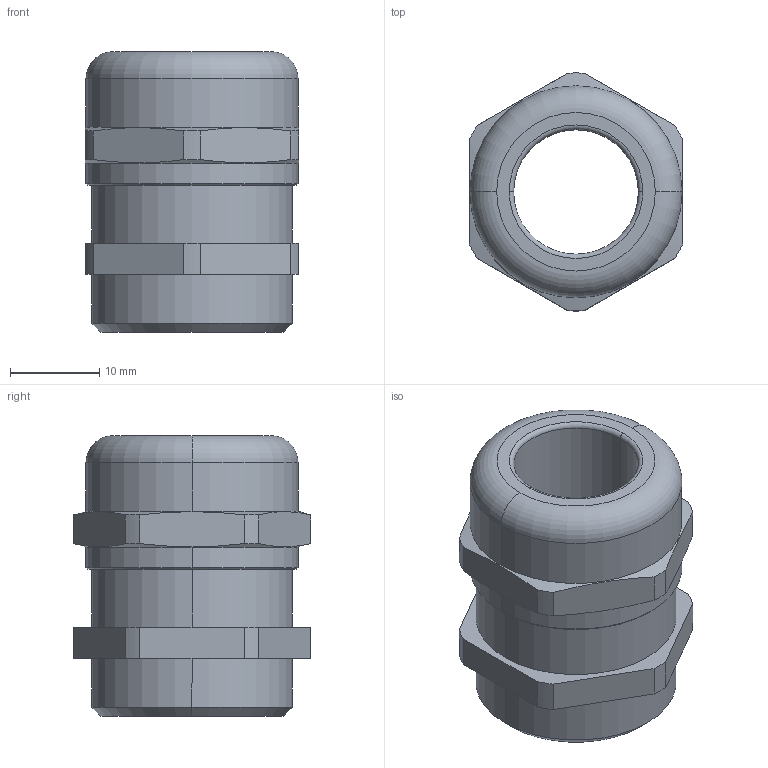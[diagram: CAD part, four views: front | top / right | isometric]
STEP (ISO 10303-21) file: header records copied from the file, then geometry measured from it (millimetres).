
FILE_DESCRIPTION (( 'STEP AP203' ), '1' );
FILE_NAME ('50.016-EMV.STEP', '2006-10-04T08:53:14', ( ' ' ), ( '' ), 'SwSTEP 2.0', 'SolidWorks 2005278', '' );
FILE_SCHEMA (( 'CONFIG_CONTROL_DESIGN' ));
Length unit declared in the file: millimetre
Products named in the file (1): 50.016-EMV
Bounding box: 24 x 26.69 x 31.5 mm (x, y, z)
Volume: 8744.6 mm3; surface area: 4434.8 mm2
Topology: 1 solids, 1 shells, 88 faces, 228 edges, 148 vertices
Faces by surface type: plane 54, cylinder 22, cone 8, torus 4
Entity records: 2785 total; most frequent: CARTESIAN_POINT 529, ORIENTED_EDGE 456, DIRECTION 446, EDGE_CURVE 228, VECTOR 156, LINE 156, VERTEX_POINT 148, AXIS2_PLACEMENT_3D 145
